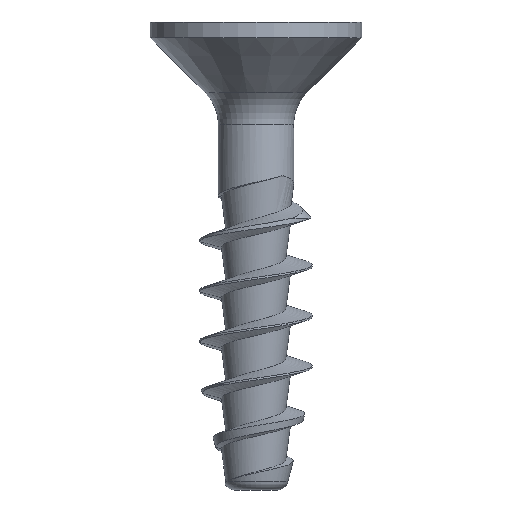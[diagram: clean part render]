
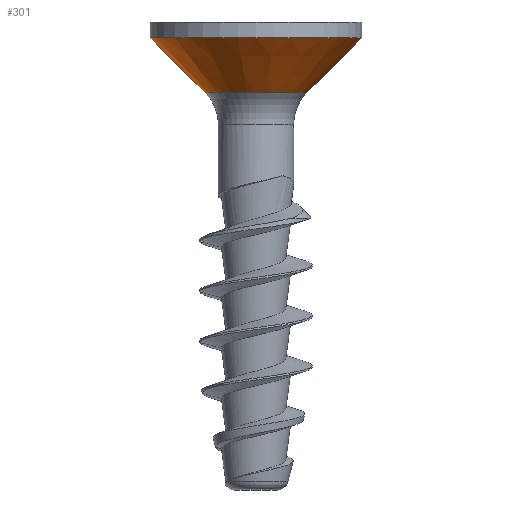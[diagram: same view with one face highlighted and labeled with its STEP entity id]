
A CAD part, front view. The second image highlights one B-rep face of the part: STEP entity #301.
In plain terms, the highlighted conical face has half-angle 45 degrees and reference radius 2.015 mm.
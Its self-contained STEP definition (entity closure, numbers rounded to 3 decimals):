
#278=FACE_BOUND('',#460,.T.);
#279=FACE_BOUND('',#461,.T.);
#288=CONICAL_SURFACE('',#1365,2.015,45.);
#301=ADVANCED_FACE('',(#278,#279),#288,.T.);
#460=EDGE_LOOP('',(#629));
#461=EDGE_LOOP('',(#630));
#543=CIRCLE('',#1363,2.718);
#544=CIRCLE('',#1364,5.65);
#629=ORIENTED_EDGE('',*,*,#1136,.T.);
#630=ORIENTED_EDGE('',*,*,#1137,.F.);
#1006=VERTEX_POINT('',#2529);
#1007=VERTEX_POINT('',#2531);
#1136=EDGE_CURVE('',#1006,#1006,#543,.T.);
#1137=EDGE_CURVE('',#1007,#1007,#544,.T.);
#1363=AXIS2_PLACEMENT_3D('',#2528,#1503,#1504);
#1364=AXIS2_PLACEMENT_3D('',#2530,#1505,#1506);
#1365=AXIS2_PLACEMENT_3D('',#2532,#1507,#1508);
#1503=DIRECTION('',(0.,0.,1.));
#1504=DIRECTION('',(1.,0.,0.));
#1505=DIRECTION('',(0.,0.,1.));
#1506=DIRECTION('',(1.,0.,0.));
#1507=DIRECTION('',(0.,0.,1.));
#1508=DIRECTION('',(1.,0.,0.));
#2528=CARTESIAN_POINT('',(0.,0.,0.703));
#2529=CARTESIAN_POINT('',(2.718,0.,0.703));
#2530=CARTESIAN_POINT('',(0.,0.,3.635));
#2531=CARTESIAN_POINT('',(5.65,0.,3.635));
#2532=CARTESIAN_POINT('',(0.,0.,0.));
